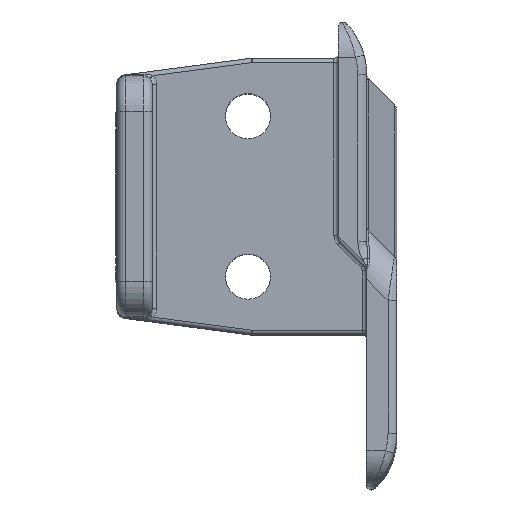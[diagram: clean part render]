
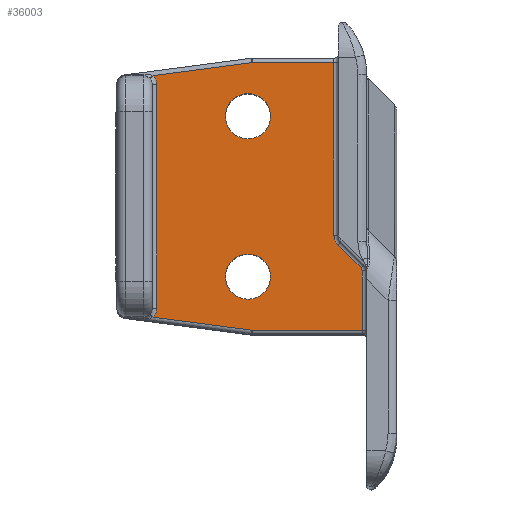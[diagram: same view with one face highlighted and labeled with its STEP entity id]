
A CAD part, top view. The second image highlights one B-rep face of the part: STEP entity #36003.
In plain terms, the highlighted planar face has unit normal (0, 0, 1).
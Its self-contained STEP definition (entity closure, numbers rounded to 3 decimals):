
#11394=CARTESIAN_POINT('',(-10.2,-9.05,16.1));
#11395=DIRECTION('',(0.,0.,1.));
#11396=DIRECTION('',(1.,0.,0.));
#11397=AXIS2_PLACEMENT_3D('',#11394,#11395,#11396);
#11399=CARTESIAN_POINT('',(-10.2,-9.05,16.1));
#11400=DIRECTION('',(0.,0.,1.));
#11401=DIRECTION('',(-1.,0.,0.));
#11402=AXIS2_PLACEMENT_3D('',#11399,#11400,#11401);
#11404=CARTESIAN_POINT('',(-10.2,9.05,16.1));
#11405=DIRECTION('',(0.,0.,1.));
#11406=DIRECTION('',(1.,0.,0.));
#11407=AXIS2_PLACEMENT_3D('',#11404,#11405,#11406);
#11409=CARTESIAN_POINT('',(-10.2,9.05,16.1));
#11410=DIRECTION('',(0.,0.,1.));
#11411=DIRECTION('',(-1.,0.,0.));
#11412=AXIS2_PLACEMENT_3D('',#11409,#11410,#11411);
#11414=DIRECTION('',(0.,-1.,0.));
#11415=VECTOR('',#11414,19.486);
#11416=CARTESIAN_POINT('',(-0.5,15.1,16.1));
#11417=LINE('',#11416,#11415);
#11418=CARTESIAN_POINT('',(1.,-4.386,16.1));
#11419=DIRECTION('',(0.,0.,1.));
#11420=DIRECTION('',(-1.,0.,0.));
#11421=AXIS2_PLACEMENT_3D('',#11418,#11419,#11420);
#11423=DIRECTION('',(0.707,-0.707,0.));
#11424=VECTOR('',#11423,3.697);
#11425=CARTESIAN_POINT('',(-0.061,-5.446,16.1));
#11426=LINE('',#11425,#11424);
#11427=CARTESIAN_POINT('',(2.2,-8.414,16.1));
#11428=DIRECTION('',(0.,0.,-1.));
#11429=DIRECTION('',(0.707,0.707,0.));
#11430=AXIS2_PLACEMENT_3D('',#11427,#11428,#11429);
#11432=DIRECTION('',(0.,-1.,0.));
#11433=VECTOR('',#11432,6.686);
#11434=CARTESIAN_POINT('',(2.7,-8.414,16.1));
#11435=LINE('',#11434,#11433);
#11436=DIRECTION('',(-1.,0.,0.));
#11437=VECTOR('',#11436,12.443);
#11438=CARTESIAN_POINT('',(2.7,-15.1,16.1));
#11439=LINE('',#11438,#11437);
#11440=CARTESIAN_POINT('',(-9.743,-14.6,16.1));
#11441=DIRECTION('',(0.,0.,-1.));
#11442=DIRECTION('',(0.,-1.,0.));
#11443=AXIS2_PLACEMENT_3D('',#11440,#11441,#11442);
#11445=DIRECTION('',(-0.991,0.131,0.));
#11446=VECTOR('',#11445,11.201);
#11447=CARTESIAN_POINT('',(-9.808,-15.096,16.1));
#11448=LINE('',#11447,#11446);
#11449=CARTESIAN_POINT('',(-22.,-12.6,16.1));
#11450=DIRECTION('',(0.,0.,-1.));
#11451=DIRECTION('',(1.,0.,0.));
#11452=AXIS2_PLACEMENT_3D('',#11449,#11450,#11451);
#11454=DIRECTION('',(0.,-1.,0.));
#11455=VECTOR('',#11454,25.2);
#11456=CARTESIAN_POINT('',(-20.5,12.6,16.1));
#11457=LINE('',#11456,#11455);
#11458=CARTESIAN_POINT('',(-22.,12.6,16.1));
#11459=DIRECTION('',(0.,0.,-1.));
#11460=DIRECTION('',(0.725,0.689,0.));
#11461=AXIS2_PLACEMENT_3D('',#11458,#11459,#11460);
#11463=DIRECTION('',(0.991,0.131,0.));
#11464=VECTOR('',#11463,11.201);
#11465=CARTESIAN_POINT('',(-20.913,13.634,
16.1));
#11466=LINE('',#11465,#11464);
#11467=CARTESIAN_POINT('',(-9.743,14.6,16.1));
#11468=DIRECTION('',(0.,0.,-1.));
#11469=DIRECTION('',(-0.131,0.991,0.));
#11470=AXIS2_PLACEMENT_3D('',#11467,#11468,#11469);
#11472=DIRECTION('',(1.,0.,0.));
#11473=VECTOR('',#11472,9.243);
#11474=CARTESIAN_POINT('',(-9.743,15.1,16.1));
#11475=LINE('',#11474,#11473);
#12451=CARTESIAN_POINT('',(-20.913,-13.634,
16.1));
#14367=CARTESIAN_POINT('',(-7.65,9.05,16.1));
#14368=VERTEX_POINT('',#14367);
#14369=CARTESIAN_POINT('',(-12.75,9.05,16.1));
#14370=VERTEX_POINT('',#14369);
#14371=CARTESIAN_POINT('',(-7.65,-9.05,16.1));
#14372=VERTEX_POINT('',#14371);
#14373=CARTESIAN_POINT('',(-12.75,-9.05,16.1));
#14374=VERTEX_POINT('',#14373);
#15182=VERTEX_POINT('',#12451);
#15184=CARTESIAN_POINT('',(-20.5,-12.6,16.1));
#15185=VERTEX_POINT('',#15184);
#15188=CARTESIAN_POINT('',(-20.5,12.6,16.1));
#15189=VERTEX_POINT('',#15188);
#15192=CARTESIAN_POINT('',(-20.913,13.634,16.1));
#15193=VERTEX_POINT('',#15192);
#15293=CARTESIAN_POINT('',(2.7,-8.414,16.1));
#15295=VERTEX_POINT('',#15293);
#15337=CARTESIAN_POINT('',(-0.5,15.1,16.1));
#15338=CARTESIAN_POINT('',(-0.5,-4.386,16.1));
#15339=VERTEX_POINT('',#15337);
#15340=VERTEX_POINT('',#15338);
#16406=CARTESIAN_POINT('',(-9.808,-15.096,16.1));
#16407=VERTEX_POINT('',#16406);
#16410=CARTESIAN_POINT('',(-0.061,-5.446,16.1));
#16412=VERTEX_POINT('',#16410);
#16415=CARTESIAN_POINT('',(2.554,-8.061,16.1));
#16417=VERTEX_POINT('',#16415);
#16443=CARTESIAN_POINT('',(-9.808,15.096,16.1));
#16444=VERTEX_POINT('',#16443);
#16455=CARTESIAN_POINT('',(-9.743,15.1,16.1));
#16456=VERTEX_POINT('',#16455);
#16475=CARTESIAN_POINT('',(2.7,-15.1,16.1));
#16476=VERTEX_POINT('',#16475);
#16485=CARTESIAN_POINT('',(-9.743,-15.1,16.1));
#16486=VERTEX_POINT('',#16485);
#35961=CARTESIAN_POINT('',(0.,0.,16.1));
#35962=DIRECTION('',(0.,0.,1.));
#35963=DIRECTION('',(1.,0.,0.));
#35964=AXIS2_PLACEMENT_3D('',#35961,#35962,#35963);
#35965=PLANE('',#35964);
#35966=ORIENTED_EDGE('',*,*,#35927,.T.);
#35967=ORIENTED_EDGE('',*,*,#35940,.T.);
#35968=ORIENTED_EDGE('',*,*,#35956,.T.);
#35969=ORIENTED_EDGE('',*,*,#20266,.T.);
#35970=ORIENTED_EDGE('',*,*,#20283,.T.);
#35972=ORIENTED_EDGE('',*,*,#35971,.T.);
#35974=ORIENTED_EDGE('',*,*,#35973,.T.);
#35976=ORIENTED_EDGE('',*,*,#35975,.T.);
#35978=ORIENTED_EDGE('',*,*,#35977,.F.);
#35980=ORIENTED_EDGE('',*,*,#35979,.F.);
#35982=ORIENTED_EDGE('',*,*,#35981,.F.);
#35984=ORIENTED_EDGE('',*,*,#35983,.T.);
#35986=ORIENTED_EDGE('',*,*,#35985,.T.);
#35988=ORIENTED_EDGE('',*,*,#35987,.T.);
#35989=EDGE_LOOP('',(#35966,#35967,#35968,#35969,#35970,#35972,#35974,#35976,
#35978,#35980,#35982,#35984,#35986,#35988));
#35990=FACE_OUTER_BOUND('',#35989,.F.);
#35992=ORIENTED_EDGE('',*,*,#35991,.T.);
#35994=ORIENTED_EDGE('',*,*,#35993,.T.);
#35995=EDGE_LOOP('',(#35992,#35994));
#35996=FACE_BOUND('',#35995,.F.);
#35998=ORIENTED_EDGE('',*,*,#35997,.T.);
#36000=ORIENTED_EDGE('',*,*,#35999,.T.);
#36001=EDGE_LOOP('',(#35998,#36000));
#36002=FACE_BOUND('',#36001,.F.);
#36003=ADVANCED_FACE('',(#35990,#35996,#36002),#35965,.T.);
#11398=CIRCLE('',#11397,2.55);
#11403=CIRCLE('',#11402,2.55);
#11408=CIRCLE('',#11407,2.55);
#11413=CIRCLE('',#11412,2.55);
#11422=CIRCLE('',#11421,1.5);
#11431=CIRCLE('',#11430,0.5);
#11444=CIRCLE('',#11443,0.5);
#11453=CIRCLE('',#11452,1.5);
#11462=CIRCLE('',#11461,1.5);
#11471=CIRCLE('',#11470,0.5);
#20266=EDGE_CURVE('',#16417,#15295,#11431,.T.);
#20283=EDGE_CURVE('',#15295,#16476,#11435,.T.);
#35927=EDGE_CURVE('',#15339,#15340,#11417,.T.);
#35940=EDGE_CURVE('',#15340,#16412,#11422,.T.);
#35956=EDGE_CURVE('',#16412,#16417,#11426,.T.);
#35971=EDGE_CURVE('',#16476,#16486,#11439,.T.);
#35973=EDGE_CURVE('',#16486,#16407,#11444,.T.);
#35975=EDGE_CURVE('',#16407,#15182,#11448,.T.);
#35977=EDGE_CURVE('',#15185,#15182,#11453,.T.);
#35979=EDGE_CURVE('',#15189,#15185,#11457,.T.);
#35981=EDGE_CURVE('',#15193,#15189,#11462,.T.);
#35983=EDGE_CURVE('',#15193,#16444,#11466,.T.);
#35985=EDGE_CURVE('',#16444,#16456,#11471,.T.);
#35987=EDGE_CURVE('',#16456,#15339,#11475,.T.);
#35991=EDGE_CURVE('',#14368,#14370,#11408,.T.);
#35993=EDGE_CURVE('',#14370,#14368,#11413,.T.);
#35997=EDGE_CURVE('',#14372,#14374,#11398,.T.);
#35999=EDGE_CURVE('',#14374,#14372,#11403,.T.);
